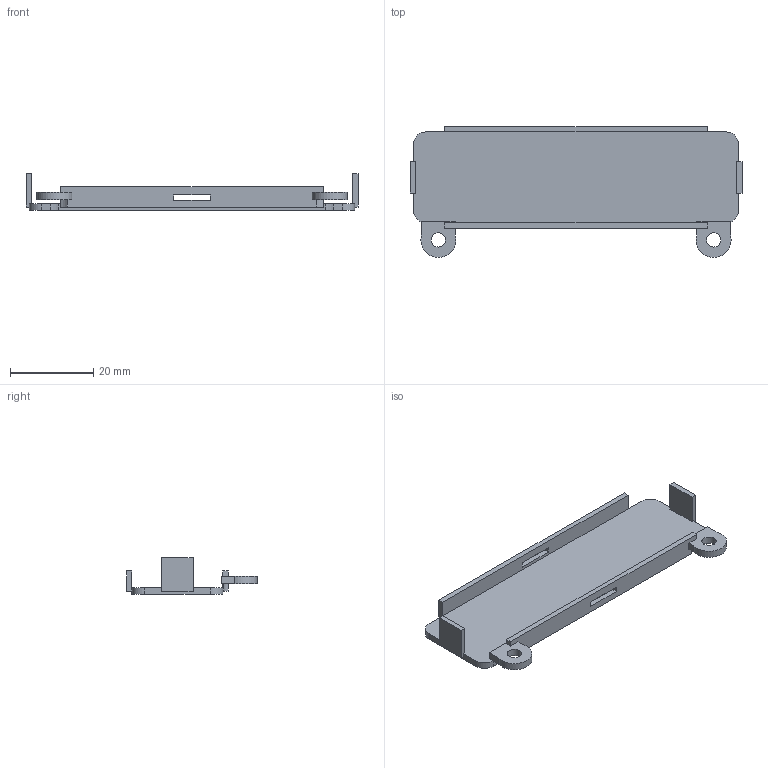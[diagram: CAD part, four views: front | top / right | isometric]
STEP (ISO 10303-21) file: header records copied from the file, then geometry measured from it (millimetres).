
FILE_DESCRIPTION(('Open CASCADE Model'),'2;1');
FILE_NAME('Open CASCADE Shape Model','2026-10-01T12:35:22',('Author'),( 'Open CASCADE'),'Open CASCADE STEP processor 7.8','Open CASCADE 7.8' ,'Unknown');
FILE_SCHEMA(('AUTOMOTIVE_DESIGN { 1 0 10303 214 1 1 1 1 }'));
Length unit declared in the file: millimetre
Products named in the file (2): P09_Battery_cradle; P09_Battery_cradle_solid
Assembly tree (1 placements, depth 2):
  P09_Battery_cradle
    P09_Battery_cradle_solid
Bounding box: 79.6 x 31.4 x 8.8 mm (x, y, z)
Volume: 3796.9 mm3; surface area: 5667.6 mm2
Topology: 1 solids, 1 shells, 68 faces, 194 edges, 128 vertices
Faces by surface type: plane 54, cylinder 14
Full cylindrical faces by diameter (mm): 3.4 x2
Entity records: 4689 total; most frequent: CARTESIAN_POINT 932, DIRECTION 638, LINE 422, VECTOR 422, ORIENTED_EDGE 388, PCURVE 388, DEFINITIONAL_REPRESENTATION 388, EDGE_CURVE 194
